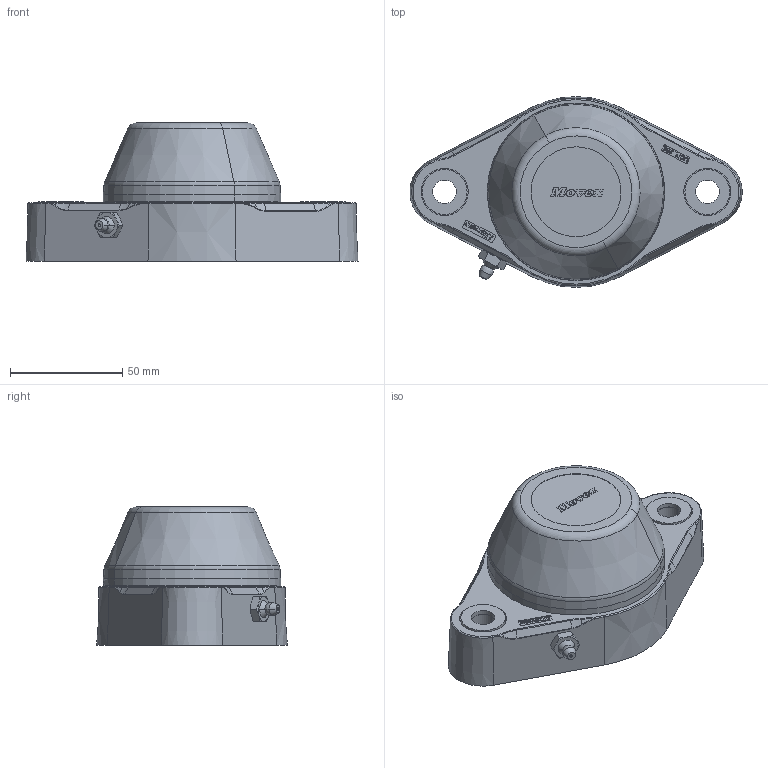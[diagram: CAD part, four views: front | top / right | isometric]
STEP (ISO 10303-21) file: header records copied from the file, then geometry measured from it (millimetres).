
FILE_DESCRIPTION(('CATIA V5 STEP Exchange'),'2;1');
FILE_NAME('C:\Users\dentellad\Desktop\P82412_01.stp','2016-11-22T14:04:50+00:00',('none'),('none'),'Version 5-6 Release 2012','CATIA V5 STEP AP203','none');
FILE_SCHEMA(('CONFIG_CONTROL_DESIGN'));
Length unit declared in the file: millimetre
Products named in the file (1): P82412_01
Assembly tree (10 placements, depth 2):
  P82412_01
    #58
    #52066
    #67269
    #70245
    #71153  x2
    #71433  x2
    #71617
    #71725
Bounding box: 147.82 x 84.93 x 61.5 mm (x, y, z)
Volume: 207779.6 mm3; surface area: 89996.6 mm2
Topology: 23 solids, 23 shells, 2307 faces, 6508 edges, 4249 vertices
Faces by surface type: plane 1942, cylinder 136, cone 82, torus 64, sphere 38, bspline 25, revolution 20
Entity records: 73124 total; most frequent: CARTESIAN_POINT 14934, ORIENTED_EDGE 12852, DIRECTION 10472, EDGE_CURVE 6426, VECTOR 5815, LINE 5815, VERTEX_POINT 4229, AXIS2_PLACEMENT_3D 2554
